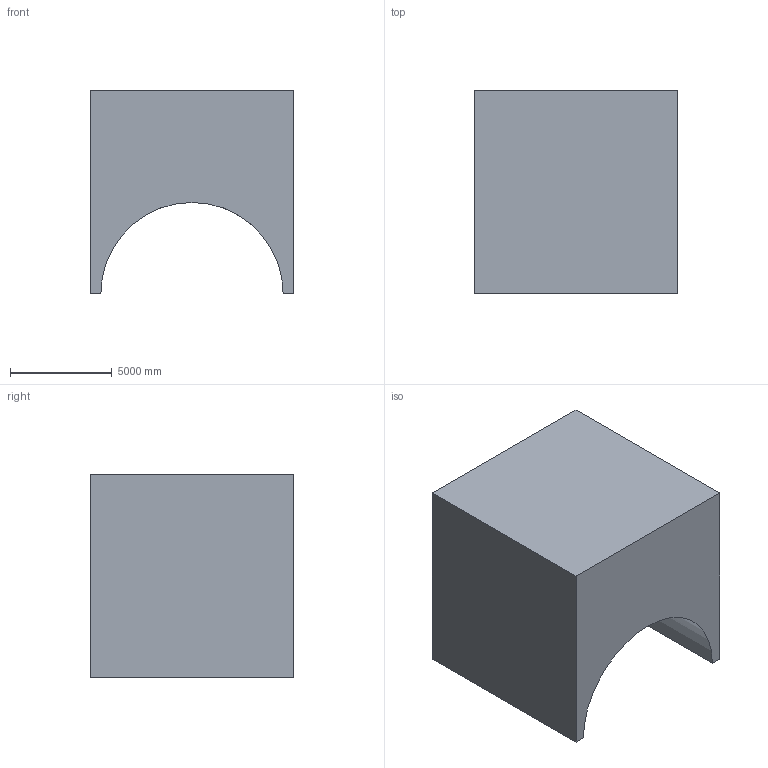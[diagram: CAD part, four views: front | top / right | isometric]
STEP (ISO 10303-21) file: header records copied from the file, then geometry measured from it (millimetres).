
FILE_DESCRIPTION (( 'STEP AP203' ), '1' );
FILE_NAME ('64.STEP', '2022-07-28T13:31:42', ( 'user' ), ( '' ), 'SwSTEP 2.0', 'SolidWorks 2021', '' );
FILE_SCHEMA (( 'CONFIG_CONTROL_DESIGN' ));
Length unit declared in the file: centimetre
Products named in the file (1): 64
Bounding box: 10000 x 10000 x 10000 mm (x, y, z)
Volume: 528445173246.7 mm3; surface area: 674885290.9 mm2
Topology: 1 solids, 1 shells, 12 faces, 30 edges, 20 vertices
Faces by surface type: plane 8, cylinder 4
Entity records: 860 total; most frequent: CARTESIAN_POINT 494, ORIENTED_EDGE 60, DIRECTION 58, EDGE_CURVE 30, VECTOR 20, LINE 20, VERTEX_POINT 20, AXIS2_PLACEMENT_3D 19
